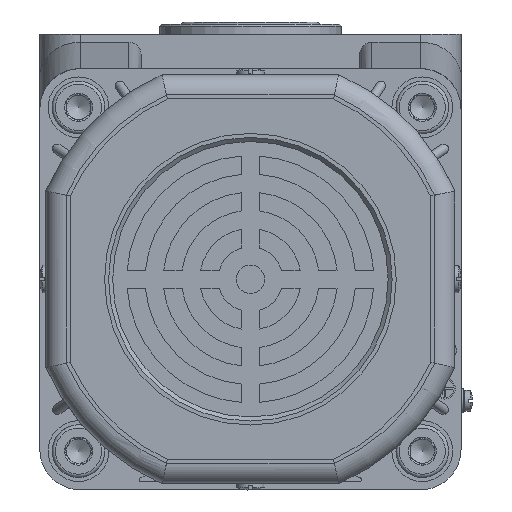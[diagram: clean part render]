
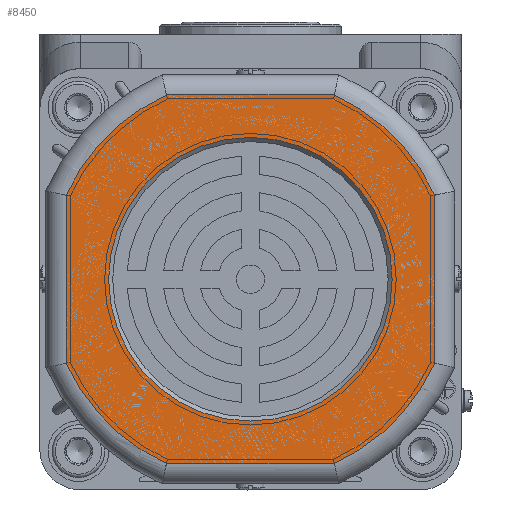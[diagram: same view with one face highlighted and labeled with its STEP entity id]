
A CAD part, left-side view. The second image highlights one B-rep face of the part: STEP entity #8450.
In plain terms, the highlighted planar face has unit normal (-1, 0, 0).
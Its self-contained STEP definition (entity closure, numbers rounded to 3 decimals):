
#1652=LINE('',#48829,#3334);
#1653=LINE('',#48845,#3335);
#1656=LINE('',#48897,#3338);
#1657=LINE('',#48913,#3339);
#3334=VECTOR('',#38289,1.);
#3335=VECTOR('',#38292,1.);
#3338=VECTOR('',#38309,1.);
#3339=VECTOR('',#38312,1.);
#5507=PLANE('',#32532);
#7028=FACE_BOUND('',#12009,.T.);
#7029=FACE_BOUND('',#12010,.T.);
#8450=ADVANCED_FACE('',(#7028,#7029),#5507,.F.);
#12009=EDGE_LOOP('',(#17776));
#12010=EDGE_LOOP('',(#17777,#17778,#17779,#17780,#17781,#17782,#17783,#17784));
#17776=ORIENTED_EDGE('',*,*,#26497,.T.);
#17777=ORIENTED_EDGE('',*,*,#26507,.T.);
#17778=ORIENTED_EDGE('',*,*,#26502,.T.);
#17779=ORIENTED_EDGE('',*,*,#26509,.T.);
#17780=ORIENTED_EDGE('',*,*,#26515,.T.);
#17781=ORIENTED_EDGE('',*,*,#26521,.T.);
#17782=ORIENTED_EDGE('',*,*,#26523,.T.);
#17783=ORIENTED_EDGE('',*,*,#26519,.T.);
#17784=ORIENTED_EDGE('',*,*,#26513,.T.);
#22935=VERTEX_POINT('',#48774);
#22940=VERTEX_POINT('',#48796);
#22941=VERTEX_POINT('',#48798);
#22943=VERTEX_POINT('',#48826);
#22946=VERTEX_POINT('',#48844);
#22947=VERTEX_POINT('',#48860);
#22950=VERTEX_POINT('',#48878);
#22951=VERTEX_POINT('',#48894);
#22954=VERTEX_POINT('',#48912);
#26497=EDGE_CURVE('',#22935,#22935,#29717,.T.);
#26502=EDGE_CURVE('',#22941,#22940,#29721,.T.);
#26507=EDGE_CURVE('',#22943,#22941,#1652,.T.);
#26509=EDGE_CURVE('',#22940,#22946,#1653,.T.);
#26513=EDGE_CURVE('',#22947,#22943,#29724,.T.);
#26515=EDGE_CURVE('',#22946,#22950,#29725,.T.);
#26519=EDGE_CURVE('',#22951,#22947,#1656,.T.);
#26521=EDGE_CURVE('',#22950,#22954,#1657,.T.);
#26523=EDGE_CURVE('',#22954,#22951,#29727,.T.);
#29717=CIRCLE('',#32270,35.);
#29721=CIRCLE('',#32276,50.);
#29724=CIRCLE('',#32282,50.);
#29725=CIRCLE('',#32284,50.);
#29727=CIRCLE('',#32289,50.);
#32270=AXIS2_PLACEMENT_3D('',#48773,#38270,#38271);
#32276=AXIS2_PLACEMENT_3D('',#48797,#38282,#38283);
#32282=AXIS2_PLACEMENT_3D('',#48863,#38298,#38299);
#32284=AXIS2_PLACEMENT_3D('',#48879,#38302,#38303);
#32289=AXIS2_PLACEMENT_3D('',#48916,#38316,#38317);
#32532=AXIS2_PLACEMENT_3D('',#49665,#38994,#38995);
#38270=DIRECTION('',(1.,0.,0.));
#38271=DIRECTION('',(0.,-1.,0.));
#38282=DIRECTION('',(-1.,0.,0.));
#38283=DIRECTION('',(0.,0.,1.));
#38289=DIRECTION('',(0.,-1.,0.));
#38292=DIRECTION('',(0.,0.,1.));
#38298=DIRECTION('',(-1.,0.,0.));
#38299=DIRECTION('',(0.,0.,1.));
#38302=DIRECTION('',(-1.,0.,0.));
#38303=DIRECTION('',(0.,0.,1.));
#38309=DIRECTION('',(0.,0.,-1.));
#38312=DIRECTION('',(0.,1.,0.));
#38316=DIRECTION('',(-1.,0.,0.));
#38317=DIRECTION('',(0.,0.,1.));
#38994=DIRECTION('',(1.,0.,0.));
#38995=DIRECTION('',(0.,0.,1.));
#48773=CARTESIAN_POINT('',(-204.8,-120.671,-58.491));
#48774=CARTESIAN_POINT('',(-204.8,-155.671,-58.491));
#48796=CARTESIAN_POINT('',(-204.8,-166.171,-79.221));
#48797=CARTESIAN_POINT('',(-204.8,-120.671,-58.491));
#48798=CARTESIAN_POINT('',(-204.8,-141.402,-103.991));
#48826=CARTESIAN_POINT('',(-204.8,-99.941,-103.991));
#48829=CARTESIAN_POINT('',(-204.8,-142.46,-103.991));
#48844=CARTESIAN_POINT('',(-204.8,-166.171,-37.76));
#48845=CARTESIAN_POINT('',(-204.8,-166.171,-36.702));
#48860=CARTESIAN_POINT('',(-204.8,-75.171,-79.221));
#48863=CARTESIAN_POINT('',(-204.8,-120.671,-58.491));
#48878=CARTESIAN_POINT('',(-204.8,-141.402,-12.991));
#48879=CARTESIAN_POINT('',(-204.8,-120.671,-58.491));
#48894=CARTESIAN_POINT('',(-204.8,-75.171,-37.76));
#48897=CARTESIAN_POINT('',(-204.8,-75.171,-80.28));
#48912=CARTESIAN_POINT('',(-204.8,-99.941,-12.991));
#48913=CARTESIAN_POINT('',(-204.8,-98.882,-12.991));
#48916=CARTESIAN_POINT('',(-204.8,-120.671,-58.491));
#49665=CARTESIAN_POINT('',(-204.8,-120.671,-58.491));
